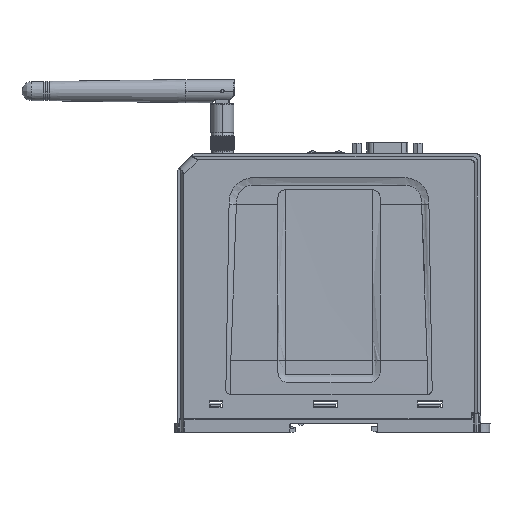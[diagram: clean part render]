
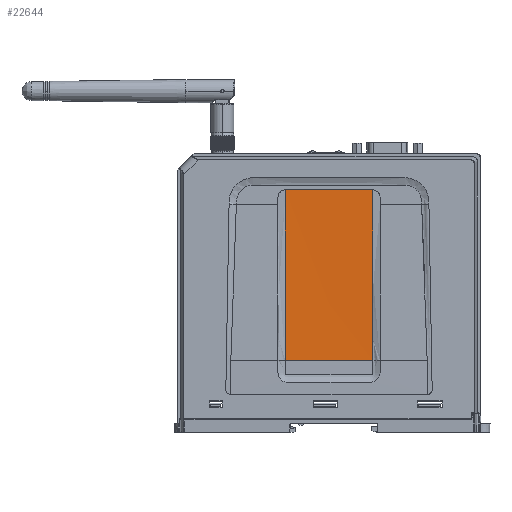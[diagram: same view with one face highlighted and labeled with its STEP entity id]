
A CAD part, top view. The second image highlights one B-rep face of the part: STEP entity #22644.
In plain terms, the highlighted free-form (B-spline) face has degree [3, 3] with [7, 6] control points.
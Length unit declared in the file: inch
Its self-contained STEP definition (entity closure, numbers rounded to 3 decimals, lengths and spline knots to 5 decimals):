
#1254 = CARTESIAN_POINT ( 'NONE',  ( -1.34005, -0.87517, 1.32456 ) ) ;
#1933 = EDGE_CURVE ( 'NONE', #32400, #65010, #17891, .T. ) ;
#2609 = B_SPLINE_CURVE_WITH_KNOTS ( 'NONE', 3,
 ( #1254, #35502, #69452, #103466 ),
 .UNSPECIFIED., .F., .F.,
 ( 4, 4 ),
 ( 0., 1. ),
 .UNSPECIFIED. ) ;
#3624 = CARTESIAN_POINT ( 'NONE',  ( -1.34006, 1.88864, 1.32558 ) ) ;
#4086 = EDGE_CURVE ( 'NONE', #45130, #76464, #42021, .T. ) ;
#6303 = CARTESIAN_POINT ( 'NONE',  ( -1.69439, 1.88864, 1.32558 ) ) ;
#6733 = CARTESIAN_POINT ( 'NONE',  ( -2.75738, 1.88864, 1.32558 ) ) ;
#6859 = CARTESIAN_POINT ( 'NONE',  ( -2.40305, 1.58155, 1.32558 ) ) ;
#7429 = CARTESIAN_POINT ( 'NONE',  ( -2.75738, 0.96737, 1.32558 ) ) ;
#9689 = CARTESIAN_POINT ( 'NONE',  ( 0.41191, 1.88864, 1.32558 ) ) ;
#14756 = CARTESIAN_POINT ( 'NONE',  ( -1.45815, 0.04605, 1.31378 ) ) ;
#15304 = CARTESIAN_POINT ( 'NONE',  ( -2.04871, -0.56808, 1.32286 ) ) ;
#15860 = CARTESIAN_POINT ( 'NONE',  ( -2.63927, -0.87517, 1.32456 ) ) ;
#16747 = ORIENTED_EDGE ( 'NONE', *, *, #42758, .T. ) ;
#17891 = B_SPLINE_CURVE_WITH_KNOTS ( 'NONE', 3,
 ( #6733, #40871, #74791, #108818, #32492, #66476 ),
 .UNSPECIFIED., .F., .F.,
 ( 4, 1, 1, 4 ),
 ( 0., 0.33333, 0.66667, 1. ),
 .UNSPECIFIED. ) ;
#22128 = CARTESIAN_POINT ( 'NONE',  ( -1.34006, 1.58155, 1.32558 ) ) ;
#22644 = ADVANCED_FACE ( 'NONE', ( #30413 ), #83376, .T. ) ;
#23150 = CARTESIAN_POINT ( 'NONE',  ( -1.45817, 1.88864, 1.32558 ) ) ;
#23709 = CARTESIAN_POINT ( 'NONE',  ( -2.04872, 1.58155, 1.32558 ) ) ;
#24264 = CARTESIAN_POINT ( 'NONE',  ( -2.63927, 0.96737, 1.32558 ) ) ;
#30413 = FACE_OUTER_BOUND ( 'NONE', #108530, .T. ) ;
#30482 = CARTESIAN_POINT ( 'NONE',  ( -1.34005, -0.56809, 1.32286 ) ) ;
#31517 = CARTESIAN_POINT ( 'NONE',  ( -1.34004, 0.04605, 1.31378 ) ) ;
#32065 = CARTESIAN_POINT ( 'NONE',  ( -1.69438, -0.56808, 1.32286 ) ) ;
#32400 = VERTEX_POINT ( 'NONE', #50210 ) ;
#32492 = CARTESIAN_POINT ( 'NONE',  ( -2.75738, -0.56809, 1.32286 ) ) ;
#32627 = CARTESIAN_POINT ( 'NONE',  ( -2.40305, -0.87517, 1.32456 ) ) ;
#35502 = CARTESIAN_POINT ( 'NONE',  ( -1.81245, -0.87517, 1.32456 ) ) ;
#39613 = VECTOR ( 'NONE', #43787, 39.37008 ) ;
#40448 = CARTESIAN_POINT ( 'NONE',  ( -1.69439, 1.58155, 1.32558 ) ) ;
#40871 = CARTESIAN_POINT ( 'NONE',  ( -2.75738, 1.58155, 1.32558 ) ) ;
#41000 = CARTESIAN_POINT ( 'NONE',  ( -2.40305, 0.96737, 1.32558 ) ) ;
#41568 = CARTESIAN_POINT ( 'NONE',  ( -2.75738, 0.04605, 1.31378 ) ) ;
#42021 = B_SPLINE_CURVE_WITH_KNOTS ( 'NONE', 3,
 ( #106800, #30482, #64460, #98443, #22128, #56100 ),
 .UNSPECIFIED., .F., .F.,
 ( 4, 1, 1, 4 ),
 ( 0., 0.33333, 0.66667, 1. ),
 .UNSPECIFIED. ) ;
#42515 = ORIENTED_EDGE ( 'NONE', *, *, #4086, .T. ) ;
#42758 = EDGE_CURVE ( 'NONE', #76464, #32400, #86065, .T. ) ;
#43787 = DIRECTION ( 'NONE',  ( -1., 0., 0. ) ) ;
#45130 = VERTEX_POINT ( 'NONE', #60943 ) ;
#48830 = CARTESIAN_POINT ( 'NONE',  ( -1.45816, -0.56809, 1.32286 ) ) ;
#49382 = CARTESIAN_POINT ( 'NONE',  ( -2.04871, -0.87517, 1.32456 ) ) ;
#49928 = CARTESIAN_POINT ( 'NONE',  ( -2.75738, 1.88864, 1.32558 ) ) ;
#50210 = CARTESIAN_POINT ( 'NONE',  ( -2.75738, 1.88864, 1.32558 ) ) ;
#56100 = CARTESIAN_POINT ( 'NONE',  ( -1.34006, 1.88864, 1.32558 ) ) ;
#57132 = CARTESIAN_POINT ( 'NONE',  ( -1.45817, 1.58155, 1.32558 ) ) ;
#57698 = CARTESIAN_POINT ( 'NONE',  ( -2.04872, 0.96737, 1.32558 ) ) ;
#58253 = CARTESIAN_POINT ( 'NONE',  ( -2.63927, 0.04605, 1.31378 ) ) ;
#59733 = ORIENTED_EDGE ( 'NONE', *, *, #1933, .T. ) ;
#60943 = CARTESIAN_POINT ( 'NONE',  ( -1.34005, -0.87517, 1.32456 ) ) ;
#64389 = CARTESIAN_POINT ( 'NONE',  ( -1.34006, 1.88864, 1.32558 ) ) ;
#64460 = CARTESIAN_POINT ( 'NONE',  ( -1.34004, 0.04605, 1.31378 ) ) ;
#65010 = VERTEX_POINT ( 'NONE', #103963 ) ;
#65494 = CARTESIAN_POINT ( 'NONE',  ( -1.34005, -0.56809, 1.32286 ) ) ;
#66048 = CARTESIAN_POINT ( 'NONE',  ( -1.69438, -0.87517, 1.32456 ) ) ;
#66476 = CARTESIAN_POINT ( 'NONE',  ( -2.75738, -0.87517, 1.32456 ) ) ;
#66618 = CARTESIAN_POINT ( 'NONE',  ( -2.63927, 1.88864, 1.32558 ) ) ;
#69452 = CARTESIAN_POINT ( 'NONE',  ( -2.28498, -0.87517, 1.32456 ) ) ;
#73820 = CARTESIAN_POINT ( 'NONE',  ( -1.34006, 1.58155, 1.32558 ) ) ;
#74372 = CARTESIAN_POINT ( 'NONE',  ( -1.69439, 0.96737, 1.32558 ) ) ;
#74791 = CARTESIAN_POINT ( 'NONE',  ( -2.75738, 0.96737, 1.32558 ) ) ;
#74925 = CARTESIAN_POINT ( 'NONE',  ( -2.40305, 0.04605, 1.31378 ) ) ;
#75499 = CARTESIAN_POINT ( 'NONE',  ( -2.75738, -0.56809, 1.32286 ) ) ;
#76464 = VERTEX_POINT ( 'NONE', #3624 ) ;
#82492 = ORIENTED_EDGE ( 'NONE', *, *, #110162, .F. ) ;
#82711 = CARTESIAN_POINT ( 'NONE',  ( -1.45816, -0.87517, 1.32456 ) ) ;
#83270 = CARTESIAN_POINT ( 'NONE',  ( -2.40305, 1.88864, 1.32558 ) ) ;
#83376 = B_SPLINE_SURFACE_WITH_KNOTS ( 'NONE', 3, 3, ( 
 ( #64389, #73820, #107850, #31517, #65494, #99487 ),
 ( #23150, #57132, #91077, #14756, #48830, #82711 ),
 ( #6303, #40448, #74372, #108386, #32065, #66048 ),
 ( #100034, #23709, #57698, #91623, #15304, #49382 ),
 ( #83270, #6859, #41000, #74925, #108952, #32627 ),
 ( #66618, #100595, #24264, #58253, #92182, #15860 ),
 ( #49928, #83834, #7429, #41568, #75499, #109521 ) ),
 .UNSPECIFIED., .F., .F., .F.,
 ( 4, 1, 1, 1, 4 ),
 ( 4, 1, 1, 4 ),
 ( 0., 0.25, 0.5, 0.75, 1. ),
 ( 0., 0.33333, 0.66667, 1. ),
 .UNSPECIFIED. ) ;
#83834 = CARTESIAN_POINT ( 'NONE',  ( -2.75738, 1.58155, 1.32558 ) ) ;
#86065 = LINE ( 'NONE', #9689, #39613 ) ;
#91077 = CARTESIAN_POINT ( 'NONE',  ( -1.45817, 0.96737, 1.32558 ) ) ;
#91623 = CARTESIAN_POINT ( 'NONE',  ( -2.04871, 0.04605, 1.31378 ) ) ;
#92182 = CARTESIAN_POINT ( 'NONE',  ( -2.63927, -0.56809, 1.32286 ) ) ;
#98443 = CARTESIAN_POINT ( 'NONE',  ( -1.34006, 0.96737, 1.32558 ) ) ;
#99487 = CARTESIAN_POINT ( 'NONE',  ( -1.34005, -0.87517, 1.32456 ) ) ;
#100034 = CARTESIAN_POINT ( 'NONE',  ( -2.04872, 1.88864, 1.32558 ) ) ;
#100595 = CARTESIAN_POINT ( 'NONE',  ( -2.63927, 1.58155, 1.32558 ) ) ;
#103466 = CARTESIAN_POINT ( 'NONE',  ( -2.75738, -0.87517, 1.32456 ) ) ;
#103963 = CARTESIAN_POINT ( 'NONE',  ( -2.75738, -0.87517, 1.32456 ) ) ;
#106800 = CARTESIAN_POINT ( 'NONE',  ( -1.34005, -0.87517, 1.32456 ) ) ;
#107850 = CARTESIAN_POINT ( 'NONE',  ( -1.34006, 0.96737, 1.32558 ) ) ;
#108386 = CARTESIAN_POINT ( 'NONE',  ( -1.69437, 0.04605, 1.31378 ) ) ;
#108530 = EDGE_LOOP ( 'NONE', ( #16747, #59733, #82492, #42515 ) ) ;
#108818 = CARTESIAN_POINT ( 'NONE',  ( -2.75738, 0.04605, 1.31378 ) ) ;
#108952 = CARTESIAN_POINT ( 'NONE',  ( -2.40305, -0.56808, 1.32286 ) ) ;
#109521 = CARTESIAN_POINT ( 'NONE',  ( -2.75738, -0.87517, 1.32456 ) ) ;
#110162 = EDGE_CURVE ( 'NONE', #45130, #65010, #2609, .T. ) ;
